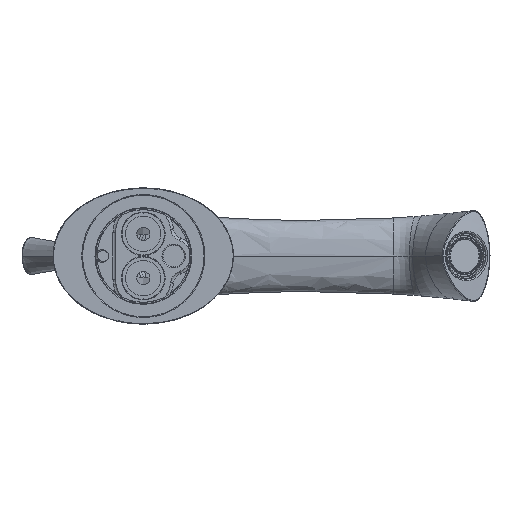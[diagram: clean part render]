
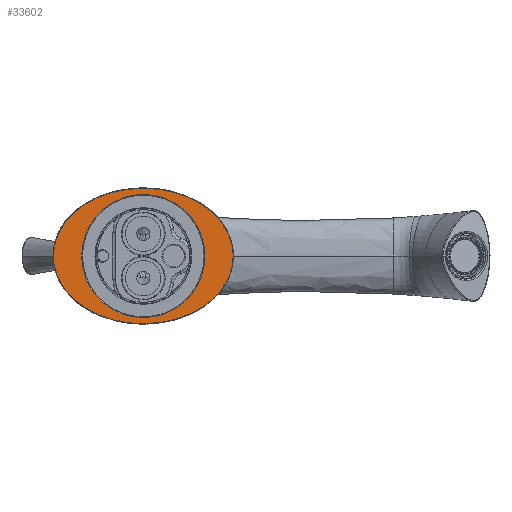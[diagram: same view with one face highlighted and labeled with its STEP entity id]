
A CAD part, front view. The second image highlights one B-rep face of the part: STEP entity #33602.
In plain terms, the highlighted planar face has unit normal (0, -1, 0).
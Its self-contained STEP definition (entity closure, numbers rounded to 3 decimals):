
#9172=CARTESIAN_POINT('',(-32.65,-5.,0.));
#9173=CARTESIAN_POINT('',(-32.65,-5.,-0.949));
#9174=CARTESIAN_POINT('',(-32.506,-5.,-2.852));
#9175=CARTESIAN_POINT('',(-31.874,-5.,-5.643));
#9176=CARTESIAN_POINT('',(-30.845,-5.,-8.321));
#9177=CARTESIAN_POINT('',(-29.457,-5.,-10.845));
#9178=CARTESIAN_POINT('',(-27.746,-5.,-13.187));
#9179=CARTESIAN_POINT('',(-25.752,-5.,-15.331));
#9180=CARTESIAN_POINT('',(-23.507,-5.,-17.266));
#9181=CARTESIAN_POINT('',(-21.044,-5.,-18.985));
#9182=CARTESIAN_POINT('',(-18.391,-5.,-20.484));
#9183=CARTESIAN_POINT('',(-15.576,-5.,-21.76));
#9184=CARTESIAN_POINT('',(-12.625,-5.,-22.81));
#9185=CARTESIAN_POINT('',(-9.565,-5.,-23.63));
#9186=CARTESIAN_POINT('',(-6.423,-5.,-24.218));
#9187=CARTESIAN_POINT('',(-3.225,-5.,-24.571));
#9188=CARTESIAN_POINT('',(0.,-5.,-24.689));
#9189=CARTESIAN_POINT('',(3.225,-5.,-24.571));
#9190=CARTESIAN_POINT('',(6.423,-5.,-24.218));
#9191=CARTESIAN_POINT('',(9.565,-5.,-23.63));
#9192=CARTESIAN_POINT('',(12.625,-5.,-22.81));
#9193=CARTESIAN_POINT('',(15.576,-5.,-21.76));
#9194=CARTESIAN_POINT('',(18.391,-5.,-20.484));
#9195=CARTESIAN_POINT('',(21.044,-5.,-18.985));
#9196=CARTESIAN_POINT('',(23.507,-5.,-17.266));
#9197=CARTESIAN_POINT('',(25.752,-5.,-15.331));
#9198=CARTESIAN_POINT('',(27.746,-5.,-13.187));
#9199=CARTESIAN_POINT('',(29.457,-5.,-10.845));
#9200=CARTESIAN_POINT('',(30.845,-5.,-8.321));
#9201=CARTESIAN_POINT('',(31.874,-5.,-5.643));
#9202=CARTESIAN_POINT('',(32.506,-5.,-2.852));
#9203=CARTESIAN_POINT('',(32.65,-5.,-0.949));
#9204=CARTESIAN_POINT('',(32.65,-5.,0.));
#9206=CARTESIAN_POINT('',(32.65,-5.,0.));
#9207=CARTESIAN_POINT('',(32.65,-5.,0.949));
#9208=CARTESIAN_POINT('',(32.506,-5.,2.852));
#9209=CARTESIAN_POINT('',(31.874,-5.,5.643));
#9210=CARTESIAN_POINT('',(30.845,-5.,8.321));
#9211=CARTESIAN_POINT('',(29.457,-5.,10.845));
#9212=CARTESIAN_POINT('',(27.746,-5.,13.187));
#9213=CARTESIAN_POINT('',(25.752,-5.,15.331));
#9214=CARTESIAN_POINT('',(23.507,-5.,17.266));
#9215=CARTESIAN_POINT('',(21.044,-5.,18.985));
#9216=CARTESIAN_POINT('',(18.391,-5.,20.484));
#9217=CARTESIAN_POINT('',(15.576,-5.,21.76));
#9218=CARTESIAN_POINT('',(12.625,-5.,22.81));
#9219=CARTESIAN_POINT('',(9.565,-5.,23.63));
#9220=CARTESIAN_POINT('',(6.423,-5.,24.218));
#9221=CARTESIAN_POINT('',(3.225,-5.,24.571));
#9222=CARTESIAN_POINT('',(0.,-5.,24.689));
#9223=CARTESIAN_POINT('',(-3.225,-5.,24.571));
#9224=CARTESIAN_POINT('',(-6.423,-5.,24.218));
#9225=CARTESIAN_POINT('',(-9.565,-5.,23.63));
#9226=CARTESIAN_POINT('',(-12.625,-5.,22.81));
#9227=CARTESIAN_POINT('',(-15.576,-5.,21.76));
#9228=CARTESIAN_POINT('',(-18.391,-5.,20.484));
#9229=CARTESIAN_POINT('',(-21.044,-5.,18.985));
#9230=CARTESIAN_POINT('',(-23.507,-5.,17.266));
#9231=CARTESIAN_POINT('',(-25.752,-5.,15.331));
#9232=CARTESIAN_POINT('',(-27.746,-5.,13.187));
#9233=CARTESIAN_POINT('',(-29.457,-5.,10.845));
#9234=CARTESIAN_POINT('',(-30.845,-5.,8.321));
#9235=CARTESIAN_POINT('',(-31.874,-5.,5.643));
#9236=CARTESIAN_POINT('',(-32.506,-5.,2.852));
#9237=CARTESIAN_POINT('',(-32.65,-5.,0.949));
#9238=CARTESIAN_POINT('',(-32.65,-5.,0.));
#9240=CARTESIAN_POINT('',(0.,-5.,0.));
#9241=DIRECTION('',(0.,1.,0.));
#9242=DIRECTION('',(-1.,0.,0.));
#9243=AXIS2_PLACEMENT_3D('',#9240,#9241,#9242);
#9245=CARTESIAN_POINT('',(0.,-5.,0.));
#9246=DIRECTION('',(0.,1.,0.));
#9247=DIRECTION('',(1.,0.,0.));
#9248=AXIS2_PLACEMENT_3D('',#9245,#9246,#9247);
#21354=VERTEX_POINT('',#9172);
#21355=VERTEX_POINT('',#9204);
#21368=CARTESIAN_POINT('',(-22.3,-5.,0.));
#21369=CARTESIAN_POINT('',(22.3,-5.,0.));
#21370=VERTEX_POINT('',#21368);
#21371=VERTEX_POINT('',#21369);
#33587=CARTESIAN_POINT('',(0.,-5.,0.));
#33588=DIRECTION('',(0.,-1.,0.));
#33589=DIRECTION('',(1.,0.,0.));
#33590=AXIS2_PLACEMENT_3D('',#33587,#33588,#33589);
#33591=PLANE('',#33590);
#33593=ORIENTED_EDGE('',*,*,#33592,.F.);
#33595=ORIENTED_EDGE('',*,*,#33594,.F.);
#33596=EDGE_LOOP('',(#33593,#33595));
#33597=FACE_OUTER_BOUND('',#33596,.F.);
#33598=ORIENTED_EDGE('',*,*,#33569,.F.);
#33599=ORIENTED_EDGE('',*,*,#33554,.F.);
#33600=EDGE_LOOP('',(#33598,#33599));
#33601=FACE_BOUND('',#33600,.F.);
#33602=ADVANCED_FACE('',(#33597,#33601),#33591,.T.);
#9205=B_SPLINE_CURVE_WITH_KNOTS('',3,(#9172,#9173,#9174,#9175,#9176,#9177,#9178,
#9179,#9180,#9181,#9182,#9183,#9184,#9185,#9186,#9187,#9188,#9189,#9190,#9191,
#9192,#9193,#9194,#9195,#9196,#9197,#9198,#9199,#9200,#9201,#9202,#9203,#9204),
.UNSPECIFIED.,.F.,.F.,(4,1,1,1,1,1,1,1,1,1,1,1,1,1,1,1,1,1,1,1,1,1,1,1,1,1,1,1,
1,1,4),(0.,0.031,0.063,0.095,
0.126,0.158,0.19,0.223,
0.256,0.29,0.324,0.358,
0.393,0.429,0.464,0.5,0.536,
0.571,0.607,0.642,0.676,
0.71,0.744,0.777,0.81,
0.842,0.874,0.905,0.937,
0.969,1.),.UNSPECIFIED.);
#9239=B_SPLINE_CURVE_WITH_KNOTS('',3,(#9206,#9207,#9208,#9209,#9210,#9211,#9212,
#9213,#9214,#9215,#9216,#9217,#9218,#9219,#9220,#9221,#9222,#9223,#9224,#9225,
#9226,#9227,#9228,#9229,#9230,#9231,#9232,#9233,#9234,#9235,#9236,#9237,#9238),
.UNSPECIFIED.,.F.,.F.,(4,1,1,1,1,1,1,1,1,1,1,1,1,1,1,1,1,1,1,1,1,1,1,1,1,1,1,1,
1,1,4),(0.,0.031,0.063,0.095,
0.126,0.158,0.19,0.223,
0.256,0.29,0.324,0.358,
0.393,0.429,0.464,0.5,0.536,
0.571,0.607,0.642,0.676,
0.71,0.744,0.777,0.81,
0.842,0.874,0.905,0.937,
0.969,1.),.UNSPECIFIED.);
#9244=CIRCLE('',#9243,22.3);
#9249=CIRCLE('',#9248,22.3);
#33554=EDGE_CURVE('',#21371,#21370,#9249,.T.);
#33569=EDGE_CURVE('',#21370,#21371,#9244,.T.);
#33592=EDGE_CURVE('',#21354,#21355,#9205,.T.);
#33594=EDGE_CURVE('',#21355,#21354,#9239,.T.);
